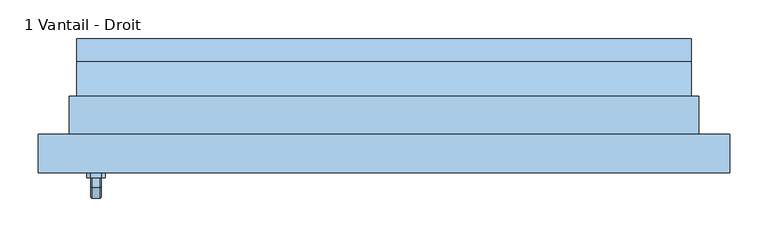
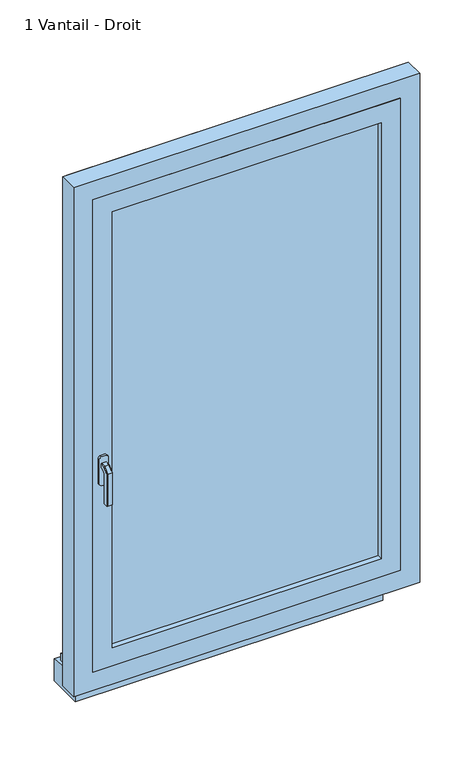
"""IFC4 building model written with IfcOpenShell, lengths in millimetres: window geometry, 1 Vantail - Droit : 0.80m x 1.35m - Appui Béton."""

from ifc_helpers import new_model, si_unit, frame, origin, place, context, project, spatial, polyline, outline, extrude, faceted_brep, source, transform, mapped, element, save


def window_1_vantail_droit_15c7afe6(model_context):
    return source(origin(), model_context, "Body", "SolidModel", [
        faceted_brep([(-369.3539903, -86.0, 1422.0339292), (-367.9660708, -86.0, 1420.6460097), (-367.9660708, -86.0, 1409.3323012), (-369.3323012, -86.0, 1407.9660708), (-380.6676988, -86.0, 1407.9660708), (-382.0339292, -86.0, 1409.3323012), (-382.0339292, -86.0, 1420.6460097), (-380.6460097, -86.0, 1422.0339292), (-369.3539903, -98.9135489, 1422.0339292), (-367.9660708, -98.3386538, 1420.6460097), (-367.9660708, -111.6460097, 1407.3386538), (-367.9660708, -111.6460097, 1320.0), (-367.9660708, -100.3323012, 1320.0), (-367.9660708, -100.3323012, 1402.6523623), (-367.9660708, -93.6523623, 1409.3323012), (-369.3323012, -93.0864511, 1407.9660708), (-380.6676988, -93.0864511, 1407.9660708), (-382.0339292, -93.6523623, 1409.3323012), (-382.0339292, -100.3323012, 1402.6523623), (-382.0339292, -100.3323012, 1320.0), (-382.0339292, -111.6460097, 1320.0), (-382.0339292, -111.6460097, 1407.3386538), (-382.0339292, -98.3386538, 1420.6460097), (-380.6460097, -98.9135489, 1422.0339292), (-369.3539903, -113.0339292, 1407.9135489), (-369.3323012, -98.9660708, 1402.0864511), (-380.6676988, -98.9660708, 1402.0864511), (-380.6460097, -113.0339292, 1407.9135489), (-369.3539903, -113.0339292, 1320.0), (-380.6460097, -113.0339292, 1320.0), (-380.6676988, -98.9660708, 1320.0), (-369.3323012, -98.9660708, 1320.0)], [[[0, 1, 2, 3, 4, 5, 6, 7]], [[1, 0, 8, 9]], [[2, 1, 9, 10, 11, 12, 13, 14]], [[3, 2, 14, 15]], [[4, 3, 15, 16]], [[5, 4, 16, 17]], [[6, 5, 17, 18, 19, 20, 21, 22]], [[7, 6, 22, 23]], [[0, 7, 23, 8]], [[9, 8, 24, 10]], [[15, 14, 13, 25]], [[16, 15, 25, 26]], [[17, 16, 26, 18]], [[23, 22, 21, 27]], [[8, 23, 27, 24]], [[28, 29, 20, 19, 30, 31, 12, 11]], [[10, 24, 28, 11]], [[25, 13, 12, 31]], [[26, 25, 31, 30]], [[18, 26, 30, 19]], [[27, 21, 20, 29]], [[24, 27, 29, 28]]]),
        extrude(outline(polyline([(1440.0, -368.0), (1440.0, -382.0), (1435.0, -387.0), (1365.0, -387.0), (1360.0, -382.0), (1360.0, -368.0), (1365.0, -363.0), (1435.0, -363.0), (1440.0, -368.0)])), frame((0.0, -86.0, 0.0), z_axis=(0.0, 1.0, 0.0), x_axis=(0.0, 0.0, 1.0)), (0.0, 0.0, 1.0), 6.0),
        extrude(outline(polyline([(0.0, 800.0), (50.0, 800.0), (50.0, 785.0), (95.0, 780.2703094), (95.0, 720.0), (0.0, 720.0), (0.0, 800.0)])), frame((-400.0, 0.0, 0.0), z_axis=(1.0, 0.0, 0.0), x_axis=(0.0, 1.0, 0.0)), (0.0, 0.0, 1.0), 800.0),
        extrude(outline(polyline([(-350.0, -54.0), (350.0, -54.0), (350.0, -66.0), (-350.0, -66.0), (-350.0, -54.0)])), frame((0.0, 0.0, 900.0), z_axis=(0.0, 0.0, 1.0), x_axis=(1.0, 0.0, 0.0)), (0.0, 0.0, 1.0), 1200.0),
        extrude(outline(polyline([(850.0, 400.0), (2150.0, 400.0), (2150.0, -400.0), (850.0, -400.0), (850.0, 400.0)]), holes=[polyline([(900.0, -350.0), (2100.0, -350.0), (2100.0, 350.0), (900.0, 350.0), (900.0, -350.0)])]), frame((0.0, -80.0, 0.0), z_axis=(0.0, 1.0, 0.0), x_axis=(0.0, 0.0, 1.0)), (0.0, 0.0, 1.0), 40.0),
        faceted_brep([(-450.0, -80.0, 800.0), (-450.0, -30.0, 800.0), (-400.0, -30.0, 800.0), (-400.0, 55.0, 800.0), (400.0, 55.0, 800.0), (400.0, -30.0, 800.0), (450.0, -30.0, 800.0), (450.0, -80.0, 800.0), (-450.0, -80.0, 2200.0), (-450.0, -30.0, 2200.0), (450.0, -30.0, 2200.0), (400.0, -30.0, 839.3761425), (-400.0, -30.0, 839.3761425), (-385.0, -30.0, 2135.0), (-385.0, -30.0, 865.0), (385.0, -30.0, 865.0), (385.0, -30.0, 2135.0), (-400.0, 65.0, 813.9209692), (-400.0, 65.0, 795.0), (-400.0, 55.0, 795.0), (400.0, 55.0, 795.0), (400.0, 65.0, 795.0), (400.0, 65.0, 813.9209692), (450.0, -80.0, 2200.0), (400.0, -80.0, 2150.0), (400.0, -80.0, 850.0), (-400.0, -80.0, 850.0), (-400.0, -80.0, 2150.0), (-385.0, -40.0, 2135.0), (-385.0, -40.0, 865.0), (385.0, -40.0, 865.0), (385.0, -40.0, 2135.0), (400.0, -40.0, 2150.0), (-400.0, -40.0, 2150.0), (-400.0, -40.0, 850.0), (400.0, -40.0, 850.0)], [[[0, 1, 2, 3, 4, 5, 6, 7]], [[1, 0, 8, 9]], [[1, 9, 10, 6, 5, 11, 12, 2], [13, 14, 15, 16]], [[12, 17, 18, 19, 3, 2]], [[3, 19, 20, 4]], [[4, 20, 21, 22, 11, 5]], [[6, 10, 23, 7]], [[0, 7, 23, 8], [24, 25, 26, 27]], [[13, 28, 29, 14]], [[29, 30, 15, 14]], [[31, 16, 15, 30]], [[17, 12, 11, 22]], [[32, 33, 34, 35], [28, 31, 30, 29]], [[34, 33, 27, 26]], [[26, 25, 35, 34]], [[24, 32, 35, 25]], [[18, 17, 22, 21]], [[19, 18, 21, 20]], [[13, 16, 31, 28]], [[33, 32, 24, 27]], [[10, 9, 8, 23]]]),
        extrude(outline(polyline([(800.0, -410.0), (800.0, -400.0), (2150.0, -400.0), (2150.0, 400.0), (800.0, 400.0), (800.0, 410.0), (2160.0, 410.0), (2160.0, -410.0), (800.0, -410.0)])), frame((0.0, -30.0, 0.0), z_axis=(0.0, 1.0, 0.0), x_axis=(0.0, 0.0, 1.0)), (0.0, 0.0, 1.0), 50.0),
    ])


if __name__ == "__main__":
    model = new_model("IFC4")
    model_context = context("Model", 3, world=origin())
    ifc_project = project(units=[si_unit("LENGTHUNIT", "METRE", prefix="MILLI")], contexts=[model_context])
    site = spatial("IfcSite", under=ifc_project)
    building = spatial("IfcBuilding", under=site)
    placement = place(None, origin())
    window_1_vantail_droit_shape = window_1_vantail_droit_15c7afe6(model_context)
    element("IfcWindow", 1, ObjectType="1 Vantail - Droit : 0.80m x 1.35m - Appui Béton", at=placement, inside=building, context=model_context, shape_type="MappedRepresentation", body=[
        mapped(window_1_vantail_droit_shape, transform((0.0, 0.0, 0.0), x_axis=(1.0, 0.0, 0.0), y_axis=(0.0, 1.0, 0.0), z_axis=(0.0, 0.0, 1.0))),
    ])
    save(model, "model.ifc")
